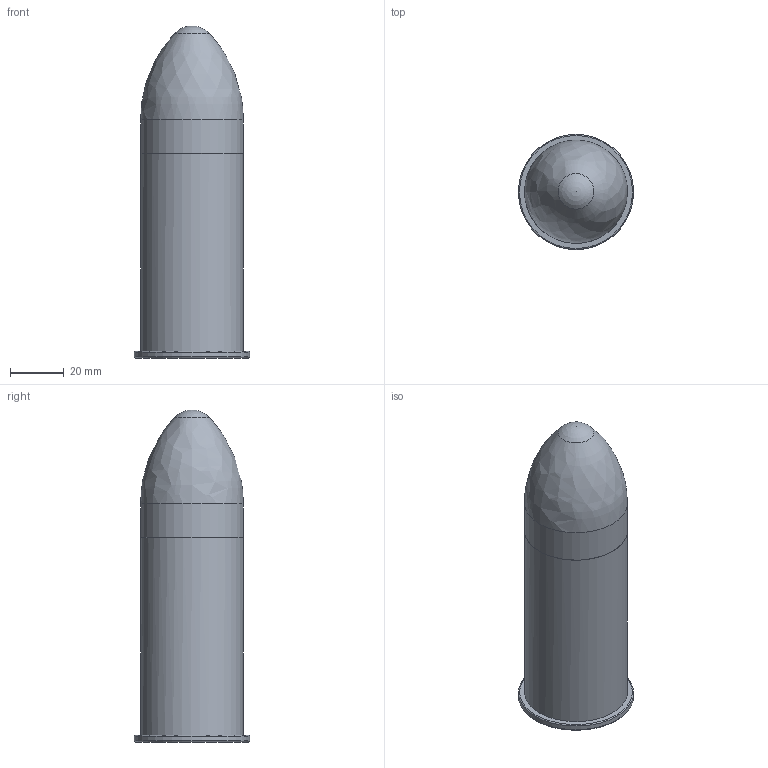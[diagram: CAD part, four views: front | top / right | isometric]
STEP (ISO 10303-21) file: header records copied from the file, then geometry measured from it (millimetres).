
FILE_DESCRIPTION(/* description */ (''),/* implementation_level */ '2;1');
FILE_NAME(/* name */ 'C:/Users/tgrim/Desktop/GU37/GoonUpper37 BETA/Ammo/GoonGunDesigns 37MM Ammo/Threaded 3in Casing BETA/Threaded 3in Casing BETA.step',/* time_stamp */ '2021-09-02T02:11:28-04:00',/* author */ (''),/* organization */ (''),/* preprocessor_version */ 'ST-DEVELOPER v18.1',/* originating_system */ 'Autodesk Translation Framework v10.10.0.1391',/* authorisation */ '');
FILE_SCHEMA (('AUTOMOTIVE_DESIGN { 1 0 10303 214 3 1 1 }'));
Length unit declared in the file: millimetre
Products named in the file (1): Threaded 3in Casing
Bounding box: 42.93 x 42.93 x 123.7 mm (x, y, z)
Volume: 76633.4 mm3; surface area: 47357.3 mm2
Topology: 4 solids, 4 shells, 101 faces, 264 edges, 173 vertices
Faces by surface type: cylinder 47, bspline 26, plane 10, torus 9, cone 7, sphere 2
Full cylindrical faces by diameter (mm): 6.3 x1, 8.8 x1, 9 x1, 25.254 x1, 25.754 x1, 26.33 x7, 27.002 x7, 29.415 x7, 30.349 x7, 33.754 x1, 34.354 x1, 34.854 x1, 38.354 x2, 42.93 x1
Entity records: 8451 total; most frequent: CARTESIAN_POINT 6170, ORIENTED_EDGE 524, DIRECTION 360, EDGE_CURVE 262, VERTEX_POINT 173, AXIS2_PLACEMENT_3D 145, B_SPLINE_CURVE_WITH_KNOTS 123, EDGE_LOOP 109
